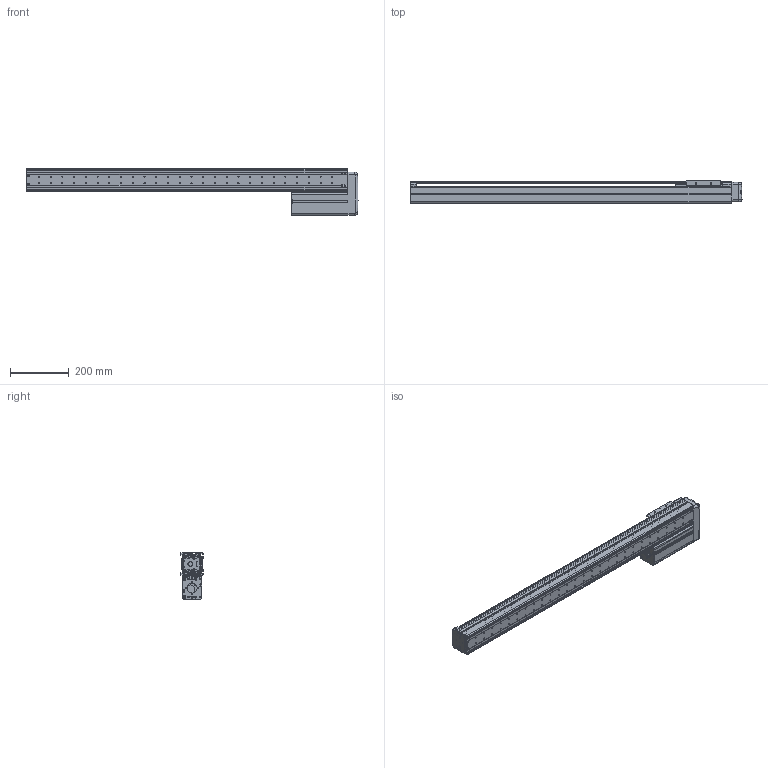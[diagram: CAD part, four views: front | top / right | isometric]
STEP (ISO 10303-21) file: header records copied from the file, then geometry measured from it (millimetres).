
FILE_DESCRIPTION((''),'2;1');
FILE_NAME('BE10E-UL-M_B-90_IGS_PRT','2017-06-17T',(' '),(''),'PRO/ENGINEER BY PARAMETRIC TECHNOLOGY CORPORATION, 2015030','PRO/ENGINEER BY PARAMETRIC TECHNOLOGY CORPORATION, 2015030','');
FILE_SCHEMA(('CONFIG_CONTROL_DESIGN'));
Length unit declared in the file: millimetre
Products named in the file (1): BE10E-UL-M_B-90_IGS_PRT
Bounding box: 1131.42 x 75 x 160 mm (x, y, z)
Volume: 1611610.3 mm3; surface area: 1098012.9 mm2
Topology: 2 solids, 129 shells, 1874 faces, 5061 edges, 3303 vertices
Faces by surface type: cylinder 921, plane 725, cone 81, torus 69, sphere 44, bspline 34
Entity records: 61417 total; most frequent: CARTESIAN_POINT 13055, DIRECTION 10496, ORIENTED_EDGE 9564, EDGE_CURVE 5025, AXIS2_PLACEMENT_3D 3949, VERTEX_POINT 3303, VECTOR 2598, LINE 2598
